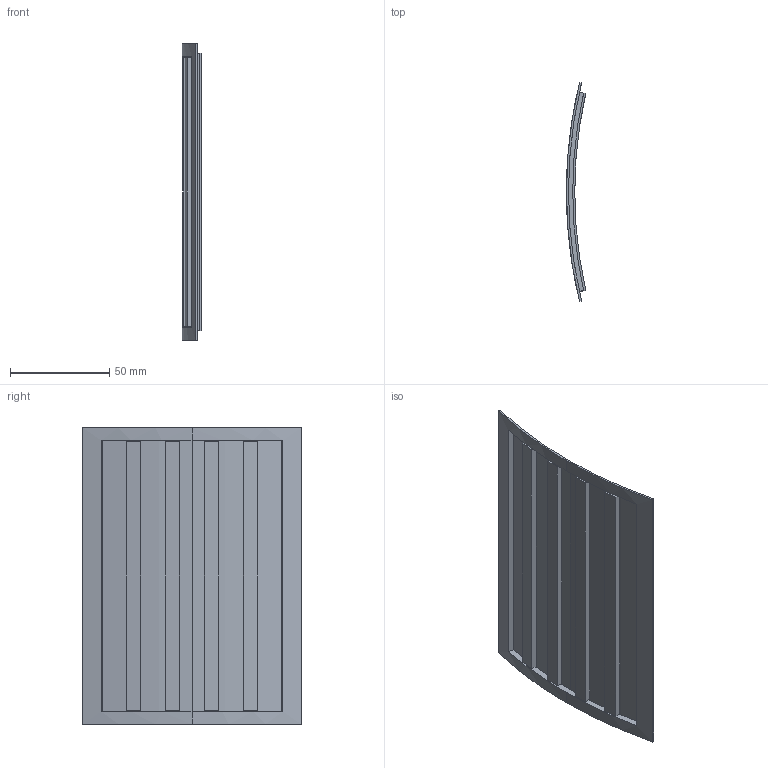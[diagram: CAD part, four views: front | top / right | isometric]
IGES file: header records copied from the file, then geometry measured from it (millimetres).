
Start section: 3D InterOp IGES (Version 21 0 3), Spatial Corp. Copyright (c) 1999-2007.
Global section: file name: CSR SIDE VENT - 20140325.igs; native system: Spatial Corp.; preprocessor: 3D InterOp GENERIC/IGES 3.0; author: Noname; organization: Noname; date: 20140505.112137; units: inch
Bounding box: 9.63 x 110.06 x 149.22 mm (x, y, z)
Surface area: 50584.6 mm2 (no closed solid volume)
Topology: 0 solids, 0 shells, 50 faces, 240 edges, 240 vertices
Faces by surface type: extrusion 40, revolution 10
